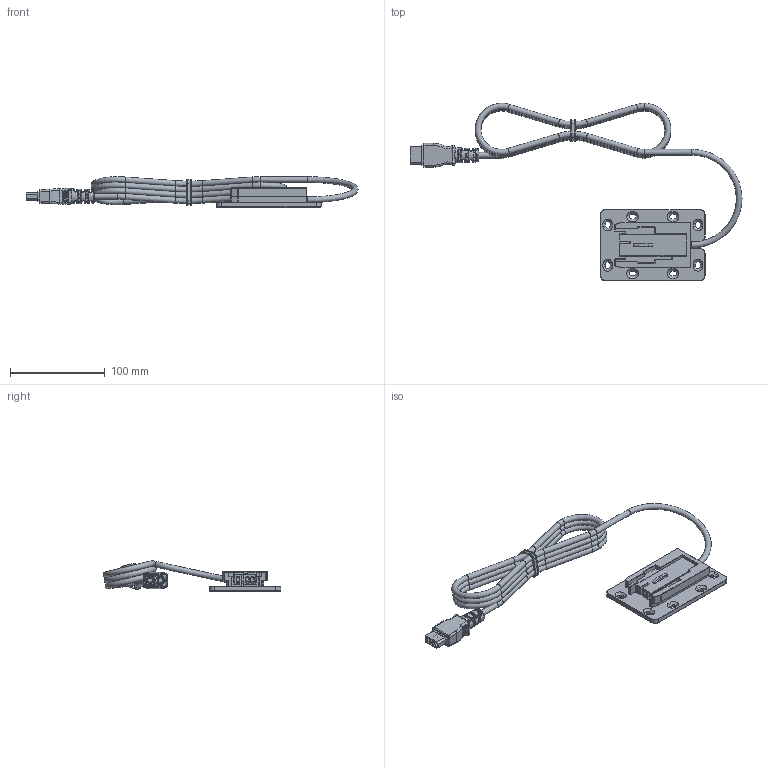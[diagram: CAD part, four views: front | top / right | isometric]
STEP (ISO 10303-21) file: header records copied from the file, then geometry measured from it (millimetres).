
FILE_DESCRIPTION(/* description */ ('Unknown'),/* implementation_level */ '2;1');
FILE_NAME(/* name */ '124.00269_01',/* time_stamp */ '2026-05-08T15:33:49+02:00',/* author */ ('Unknown'),/* organization */ ('Unknown'),/* preprocessor_version */ 'ST-DEVELOPER v20',/* originating_system */ 'Solid Edge',/* authorisation */ 'Unknown');
FILE_SCHEMA (('AUTOMOTIVE_DESIGN {1 0 10303 214 3 1 1}'));
Length unit declared in the file: millimetre
Products named in the file (8): 124.00269; 128.00095; c-964326-1-c-3d; BN 11308 3060086 flat countersunk head screw K22 x 6 WN 1423 _ 6 IP; 124.00268; Kabel mit Stecker XT90_gedreht; 128.00096
Assembly tree (12 placements, depth 3):
  124.00269
    128.00095
    c-964326-1-c-3d  x2
    BN 11308 3060086 flat countersunk head screw K22 x 6 WN 1423 _ 6 IP  x4
    124.00268
      Kabel mit Stecker XT90_gedreht
      c-964326-1-c-3d  x2
    128.00096
Bounding box: 349.61 x 186.85 x 32.16 mm (x, y, z)
Volume: 130435.1 mm3; surface area: 77886.8 mm2
Topology: 10 solids, 11 shells, 1090 faces, 2601 edges, 1553 vertices
Faces by surface type: plane 547, cylinder 266, cone 108, torus 103, bspline 54, sphere 12
Full cylindrical faces by diameter (mm): 1.5 x4, 2.2 x8, 2.5 x10, 3.8 x4, 5.2 x2, 5.8 x2, 6 x5, 7 x2, 10 x1
Entity records: 36956 total; most frequent: CARTESIAN_POINT 9142, ORIENTED_EDGE 4554, DIRECTION 4350, EDGE_CURVE 2277, AXIS2_PLACEMENT_3D 1469, LINE 1412, VECTOR 1412, VERTEX_POINT 1390
